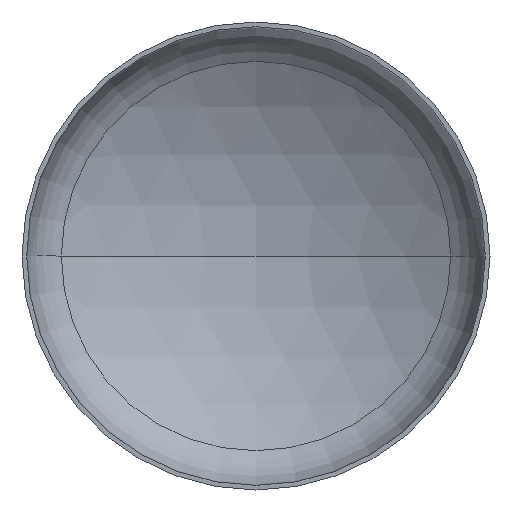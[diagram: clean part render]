
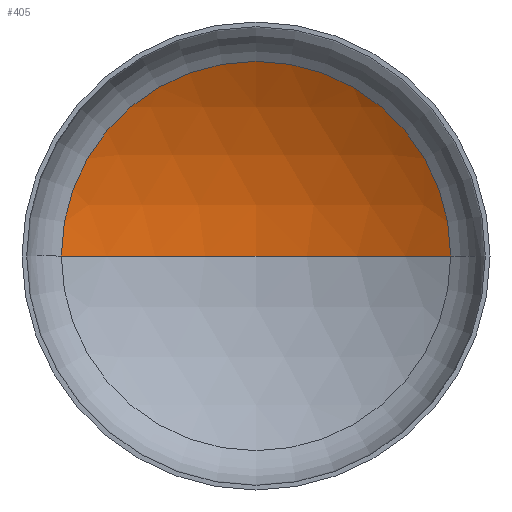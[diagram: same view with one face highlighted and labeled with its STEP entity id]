
A CAD part, front view. The second image highlights one B-rep face of the part: STEP entity #405.
In plain terms, the highlighted spherical face has radius 1920 mm.
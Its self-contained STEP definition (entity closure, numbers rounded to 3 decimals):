
#10 = AXIS2_PLACEMENT_3D ( 'NONE', #72, #224, #330 ) ;
#12 = AXIS2_PLACEMENT_3D ( 'NONE', #359, #362, #180 ) ;
#13 = AXIS2_PLACEMENT_3D ( 'NONE', #126, #231, #382 ) ;
#17 = ORIENTED_EDGE ( 'NONE', *, *, #335, .T. ) ;
#30 = ORIENTED_EDGE ( 'NONE', *, *, #346, .F. ) ;
#64 = VERTEX_POINT ( 'NONE', #192 ) ;
#72 = CARTESIAN_POINT ( 'NONE',  ( 0., -1248.958, 0. ) ) ;
#88 = ORIENTED_EDGE ( 'NONE', *, *, #341, .T. ) ;
#123 = VERTEX_POINT ( 'NONE', #361 ) ;
#126 = CARTESIAN_POINT ( 'NONE',  ( 0., 391.042, 0. ) ) ;
#127 = AXIS2_PLACEMENT_3D ( 'NONE', #293, #233, #383 ) ;
#134 = CIRCLE ( 'NONE', #10, 1920. ) ;
#180 = DIRECTION ( 'NONE',  ( -1., 0., 0. ) ) ;
#182 = VERTEX_POINT ( 'NONE', #334 ) ;
#192 = CARTESIAN_POINT ( 'NONE',  ( 998.4, 391.042, 0. ) ) ;
#202 = SPHERICAL_SURFACE ( 'NONE', #127, 1920. ) ;
#224 = DIRECTION ( 'NONE',  ( 0., 0., 1. ) ) ;
#231 = DIRECTION ( 'NONE',  ( 0., -1., 0. ) ) ;
#233 = DIRECTION ( 'NONE',  ( 0., 0., -1. ) ) ;
#279 = CIRCLE ( 'NONE', #12, 1920. ) ;
#293 = CARTESIAN_POINT ( 'NONE',  ( 0., -1248.958, 0. ) ) ;
#309 = FACE_OUTER_BOUND ( 'NONE', #404, .T. ) ;
#330 = DIRECTION ( 'NONE',  ( 1., 0., 0. ) ) ;
#334 = CARTESIAN_POINT ( 'NONE',  ( 0., 671.042, 0. ) ) ;
#335 = EDGE_CURVE ( 'NONE', #64, #123, #408, .T. ) ;
#341 = EDGE_CURVE ( 'NONE', #182, #64, #279, .T. ) ;
#346 = EDGE_CURVE ( 'NONE', #182, #123, #134, .T. ) ;
#359 = CARTESIAN_POINT ( 'NONE',  ( 0., -1248.958, 0. ) ) ;
#361 = CARTESIAN_POINT ( 'NONE',  ( -998.4, 391.042, 0. ) ) ;
#362 = DIRECTION ( 'NONE',  ( 0., 0., -1. ) ) ;
#382 = DIRECTION ( 'NONE',  ( 1., 0., 0. ) ) ;
#383 = DIRECTION ( 'NONE',  ( -1., 0., 0. ) ) ;
#404 = EDGE_LOOP ( 'NONE', ( #30, #88, #17 ) ) ;
#405 = ADVANCED_FACE ( 'NONE', ( #309 ), #202, .F. ) ;
#408 = CIRCLE ( 'NONE', #13, 998.4 ) ;
